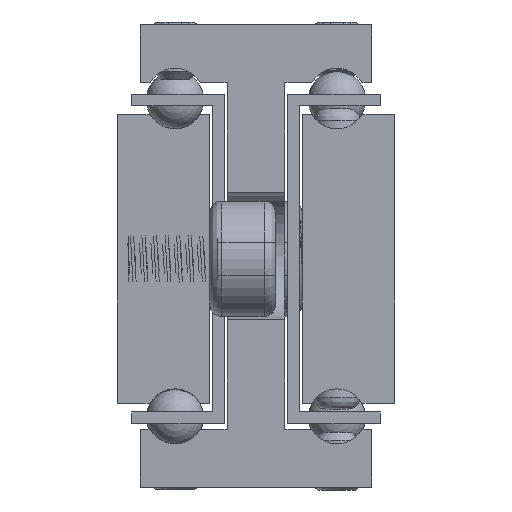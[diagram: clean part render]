
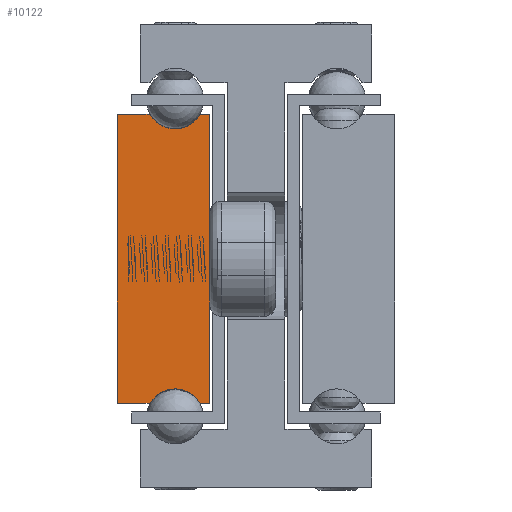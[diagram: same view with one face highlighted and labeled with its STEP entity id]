
A CAD part, front view. The second image highlights one B-rep face of the part: STEP entity #10122.
In plain terms, the highlighted planar face has unit normal (0, -1, 0).
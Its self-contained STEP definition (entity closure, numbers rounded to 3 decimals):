
#696=CIRCLE('',#10847,2.5);
#698=CIRCLE('',#10853,2.5);
#1238=FACE_OUTER_BOUND('',#1877,.T.);
#1877=EDGE_LOOP('',(#7287,#7288,#7289,#7290,#7291,#7292,#7293,#7294));
#2741=LINE('',#22548,#3671);
#2744=LINE('',#22554,#3674);
#2748=LINE('',#22566,#3678);
#2751=LINE('',#22572,#3681);
#2754=LINE('',#22578,#3684);
#2758=LINE('',#22588,#3688);
#3671=VECTOR('',#11837,1.);
#3674=VECTOR('',#11842,1.);
#3678=VECTOR('',#11854,1.);
#3681=VECTOR('',#11859,1.);
#3684=VECTOR('',#11864,1.);
#3688=VECTOR('',#11876,1.);
#4621=VERTEX_POINT('',#22545);
#4622=VERTEX_POINT('',#22547);
#4624=VERTEX_POINT('',#22553);
#4626=VERTEX_POINT('',#22559);
#4628=VERTEX_POINT('',#22565);
#4630=VERTEX_POINT('',#22571);
#4632=VERTEX_POINT('',#22577);
#4634=VERTEX_POINT('',#22583);
#5710=EDGE_CURVE('',#4622,#4621,#2741,.T.);
#5713=EDGE_CURVE('',#4624,#4622,#2744,.T.);
#5716=EDGE_CURVE('',#4626,#4624,#696,.T.);
#5719=EDGE_CURVE('',#4628,#4626,#2748,.T.);
#5722=EDGE_CURVE('',#4630,#4628,#2751,.T.);
#5725=EDGE_CURVE('',#4632,#4630,#2754,.T.);
#5728=EDGE_CURVE('',#4634,#4632,#698,.T.);
#5731=EDGE_CURVE('',#4621,#4634,#2758,.T.);
#7287=ORIENTED_EDGE('',*,*,#5731,.T.);
#7288=ORIENTED_EDGE('',*,*,#5728,.T.);
#7289=ORIENTED_EDGE('',*,*,#5725,.T.);
#7290=ORIENTED_EDGE('',*,*,#5722,.T.);
#7291=ORIENTED_EDGE('',*,*,#5719,.T.);
#7292=ORIENTED_EDGE('',*,*,#5716,.T.);
#7293=ORIENTED_EDGE('',*,*,#5713,.T.);
#7294=ORIENTED_EDGE('',*,*,#5710,.T.);
#9699=PLANE('',#10856);
#10122=ADVANCED_FACE('',(#1238),#9699,.T.);
#10847=AXIS2_PLACEMENT_3D('',#22560,#11848,#11849);
#10853=AXIS2_PLACEMENT_3D('',#22584,#11870,#11871);
#10856=AXIS2_PLACEMENT_3D('',#22590,#11879,#11880);
#11837=DIRECTION('',(0.,0.,-1.));
#11842=DIRECTION('',(-1.,0.,0.));
#11848=DIRECTION('center_axis',(0.,1.,0.));
#11849=DIRECTION('ref_axis',(-0.866,0.,-0.5));
#11854=DIRECTION('',(-1.,0.,0.));
#11859=DIRECTION('',(0.,0.,1.));
#11864=DIRECTION('',(1.,0.,0.));
#11870=DIRECTION('center_axis',(0.,1.,0.));
#11871=DIRECTION('ref_axis',(0.866,0.,0.5));
#11876=DIRECTION('',(1.,0.,0.));
#11879=DIRECTION('center_axis',(0.,-1.,0.));
#11880=DIRECTION('ref_axis',(1.,0.,0.));
#22545=CARTESIAN_POINT('',(2528.164,990.279,180.674));
#22547=CARTESIAN_POINT('',(2528.164,990.279,205.674));
#22548=CARTESIAN_POINT('',(2528.164,990.279,180.674));
#22553=CARTESIAN_POINT('',(2530.999,990.279,205.674));
#22554=CARTESIAN_POINT('',(2528.164,990.279,205.674));
#22559=CARTESIAN_POINT('',(2535.33,990.279,205.674));
#22560=CARTESIAN_POINT('Origin',(2533.164,990.279,206.924));
#22565=CARTESIAN_POINT('',(2536.164,990.279,205.674));
#22566=CARTESIAN_POINT('',(2535.33,990.279,205.674));
#22571=CARTESIAN_POINT('',(2536.164,990.279,180.674));
#22572=CARTESIAN_POINT('',(2536.164,990.279,205.674));
#22577=CARTESIAN_POINT('',(2535.33,990.279,180.674));
#22578=CARTESIAN_POINT('',(2536.164,990.279,180.674));
#22583=CARTESIAN_POINT('',(2530.999,990.279,180.674));
#22584=CARTESIAN_POINT('Origin',(2533.164,990.279,179.424));
#22588=CARTESIAN_POINT('',(2530.999,990.279,180.674));
#22590=CARTESIAN_POINT('Origin',(2532.152,990.279,193.174));
